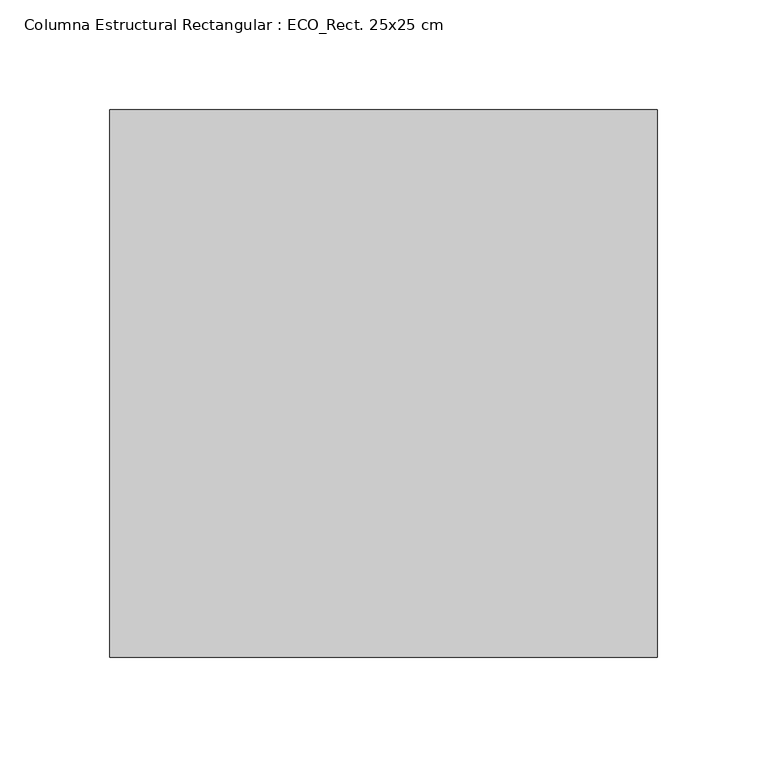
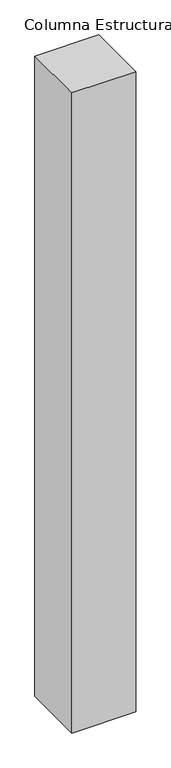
"""IFC4 building model written with IfcOpenShell, lengths in millimetres: column geometry, Columna Estructural Rectangular : ECO_Rect. 25x25 cm."""

from ifc_helpers import new_model, si_unit, frame, origin, place, context, project, spatial, polyline, outline, extrude, source, transform, mapped, element, save


def columna_estructural_rectangular_eco_rect_25x25_cm_e1e9a058(model_context):
    return source(origin(), model_context, "Body", "SweptSolid", [
        extrude(outline(polyline([(125.0, 125.0), (125.0, -125.0), (-125.0, -125.0), (-125.0, 125.0), (125.0, 125.0)])), frame((0.0, 0.0, 10700.0), z_axis=(0.0, 0.0, 1.0), x_axis=(1.0, 0.0, 0.0)), (0.0, 0.0, 1.0), 2650.0),
    ])


if __name__ == "__main__":
    model = new_model("IFC4")
    model_context = context("Model", 3, world=origin())
    ifc_project = project(units=[si_unit("LENGTHUNIT", "METRE", prefix="MILLI")], contexts=[model_context])
    site = spatial("IfcSite", under=ifc_project)
    building = spatial("IfcBuilding", under=site)
    placement = place(None, origin())
    columna_estructural_rectangular_eco_rect_25x25_cm_shape = columna_estructural_rectangular_eco_rect_25x25_cm_e1e9a058(model_context)
    element("IfcColumn", 1, ObjectType="Columna Estructural Rectangular : ECO_Rect. 25x25 cm", at=placement, inside=building, context=model_context, shape_type="MappedRepresentation", body=[
        mapped(columna_estructural_rectangular_eco_rect_25x25_cm_shape, transform((0.0, 0.0, 0.0), x_axis=(1.0, 0.0, 0.0), y_axis=(0.0, 1.0, 0.0), z_axis=(0.0, 0.0, 1.0))),
    ])
    save(model, "model.ifc")
